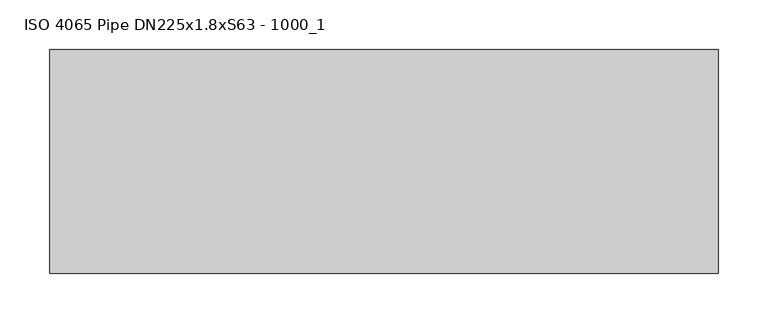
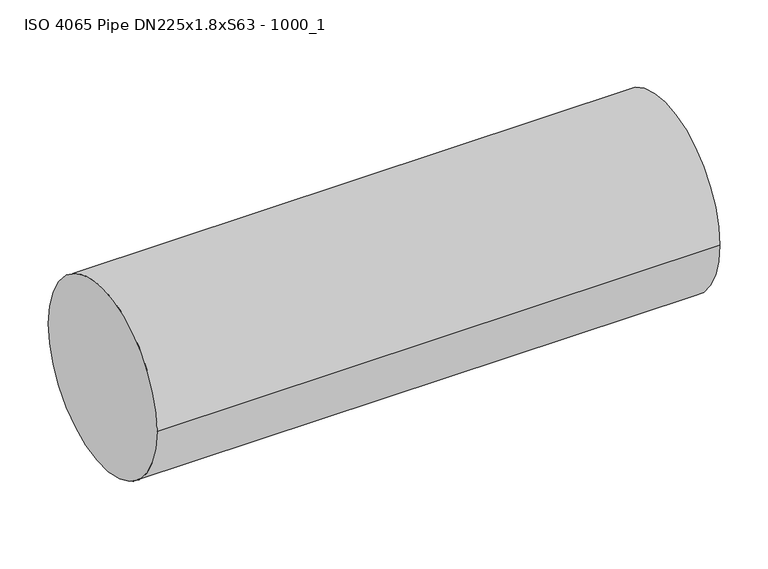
"""IFC4 building model written with IfcOpenShell, lengths in millimetres: proxy geometry, ISO 4065 Pipe DN225x1.8xS63 - 1000_1."""

from ifc_helpers import new_model, si_unit, frame, origin, place, context, project, spatial, circle_curve, source, transform, mapped, element, save
from ifc_brep_helpers import plane_surface, cylinder_surface, advanced_brep


def iso_4065_pipe_dn225x1_8xs63_1000_1_7a503d00(model_context):
    return source(origin(), model_context, "Body", "AdvancedBrep", [
        advanced_brep(
        [(0.0, -112.5, 0.0), (671.9, -112.5, 0.0), (671.9, 0.0, 112.5), (671.9, 112.5, 0.0), (0.0, 112.5, 0.0)],
        [
            (0, 1),
            (1, 2, circle_curve(frame((671.9, 0.0, 0.0), z_axis=(-1.0, 0.0, 0.0), x_axis=(0.0, -1.0, 0.0)), 112.5)),
            (2, 3, circle_curve(frame((671.9, 0.0, 0.0), z_axis=(-1.0, 0.0, 0.0), x_axis=(0.0, -1.0, 0.0)), 112.5)),
            (3, 4),
            (4, 0, circle_curve(frame((0.0, 0.0, 0.0), z_axis=(1.0, 0.0, 0.0), x_axis=(0.0, -1.0, 0.0)), 112.5)),
            (4, 0, circle_curve(frame((0.0, 0.0, 0.0), z_axis=(-1.0, 0.0, 0.0), x_axis=(0.0, -1.0, 0.0)), 112.5)),
            (1, 3, circle_curve(frame((671.9, 0.0, 0.0), z_axis=(1.0, 0.0, 0.0), x_axis=(0.0, -1.0, 0.0)), 112.5)),
        ],
        [
            cylinder_surface(frame((0.0, 0.0, 0.0), z_axis=(1.0, 0.0, 0.0), x_axis=(0.0, -1.0, 0.0)), 112.5),
            plane_surface(frame((0.0, 0.0, 0.0), z_axis=(-1.0, 0.0, 0.0), x_axis=(0.0, 0.0, 1.0))),
            plane_surface(frame((671.9, 0.0, 0.0), z_axis=(1.0, 0.0, 0.0), x_axis=(0.0, 0.0, 1.0))),
        ],
        [
            (0, [[1, 2, 3, 4, 5]]),
            (1, [[6, -5]]),
            (2, [[-3, -2, 7]]),
            (0, [[-1, -6, -4, -7]]),
        ],
    ),
    ])


if __name__ == "__main__":
    model = new_model("IFC4")
    model_context = context("Model", 3, world=origin())
    ifc_project = project(units=[si_unit("LENGTHUNIT", "METRE", prefix="MILLI")], contexts=[model_context])
    site = spatial("IfcSite", under=ifc_project)
    building = spatial("IfcBuilding", under=site)
    placement = place(None, origin())
    iso_4065_pipe_dn225x1_8xs63_1000_1_shape = iso_4065_pipe_dn225x1_8xs63_1000_1_7a503d00(model_context)
    element("IfcBuildingElementProxy", 1, Name="ISO 4065 Pipe DN225x1.8xS63 - 1000_1", ObjectType="ISO 4065 Pipe DN225x1.8xS63 - 1000_1", at=placement, inside=building, context=model_context, shape_type="MappedRepresentation", body=[
        mapped(iso_4065_pipe_dn225x1_8xs63_1000_1_shape, transform((0.0, 0.0, 0.0), x_axis=(1.0, 0.0, 0.0), y_axis=(0.0, 1.0, 0.0), z_axis=(0.0, 0.0, 1.0))),
    ])
    save(model, "model.ifc")
